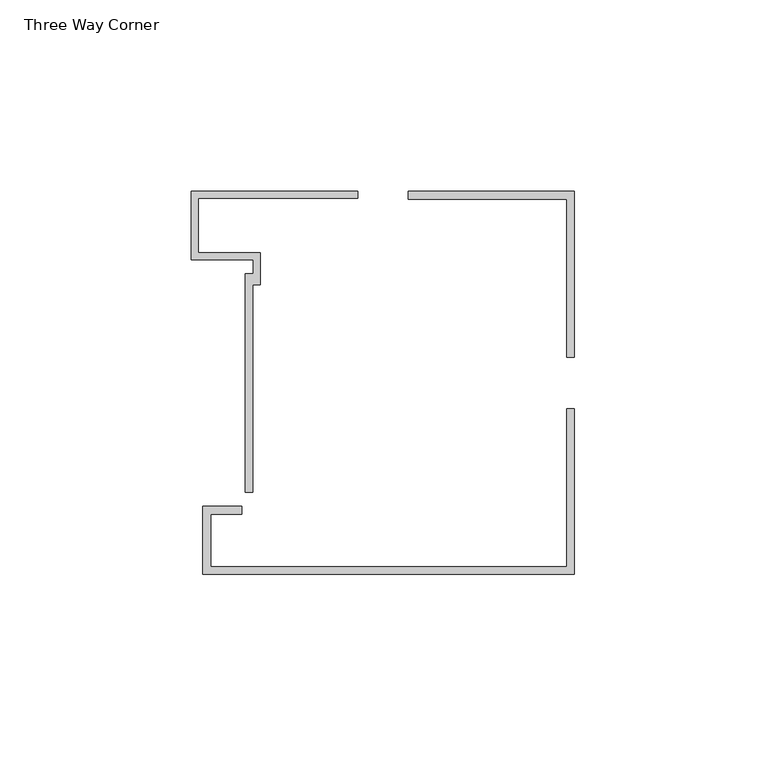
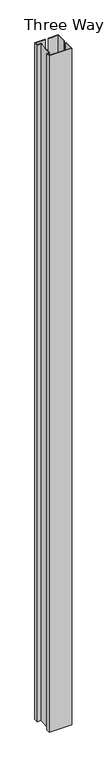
"""IFC4 building model written with IfcOpenShell, lengths in millimetres: proxy geometry, Connection-Corner-Teknion-OptosLP-Three_Way_FZCA3A_G : Three Way Corner."""

from ifc_helpers import new_model, si_unit, origin, origin_with_axes, place, context, project, spatial, polyline, outline, extrude, source, transform, mapped, element, save


def three_way_corner_7945eaf1(model_context):
    return source(origin(), model_context, "Body", "SweptSolid", [
        extrude(outline(polyline([(6.5668339, 50.00625), (50.00635, 50.00625), (50.00635, 6.6681452), (47.9740919, 6.6681452), (47.9740919, 47.9739919), (6.5668339, 47.9739919), (6.5668339, 50.00625)])), origin_with_axes(), (0.0, 0.0, 1.0), 3048.0),
        extrude(outline(polyline([(-47.005969, -50.00625), (-47.005969, -32.2239919), (-36.8446787, -32.2239919), (-36.8446787, -34.25625), (-44.9737109, -34.25625), (-44.9737109, -47.9739919), (47.9740919, -47.9739919), (47.9740919, -6.6681452), (50.00635, -6.6681452), (50.00635, -50.00625), (-47.005969, -50.00625)])), origin_with_axes(), (0.0, 0.0, 1.0), 3048.0),
        extrude(outline(polyline([(-36.004572, 28.578629), (-33.8753016, 28.578629), (-33.8753016, 32.1731855), (-50.00635, 32.1731855), (-50.00635, 50.00625), (-6.5668339, 50.00625), (-6.5668339, 48.2281242), (-48.2281242, 48.2281242), (-48.2281242, 34.0023178), (-32.0970758, 34.0023178), (-32.0970758, 25.6192532), (-33.9723139, 25.6192532), (-33.9723139, -28.578629), (-36.004572, -28.578629), (-36.004572, 28.578629)])), origin_with_axes(), (0.0, 0.0, 1.0), 3048.0),
    ])


if __name__ == "__main__":
    model = new_model("IFC4")
    model_context = context("Model", 3, world=origin())
    ifc_project = project(units=[si_unit("LENGTHUNIT", "METRE", prefix="MILLI")], contexts=[model_context])
    site = spatial("IfcSite", under=ifc_project)
    building = spatial("IfcBuilding", under=site)
    placement = place(None, origin())
    three_way_corner_shape = three_way_corner_7945eaf1(model_context)
    element("IfcBuildingElementProxy", 1, Name="Connection-Corner-Teknion-OptosLP-Three_Way_FZCA3A_G : Three Way Corner", ObjectType="Connection-Corner-Teknion-OptosLP-Three_Way_FZCA3A_G : Three Way Corner", at=placement, inside=building, context=model_context, shape_type="MappedRepresentation", body=[
        mapped(three_way_corner_shape, transform((0.0, 0.0, 0.0), x_axis=(1.0, 0.0, 0.0), y_axis=(0.0, 1.0, 0.0), z_axis=(0.0, 0.0, 1.0))),
    ])
    save(model, "model.ifc")
